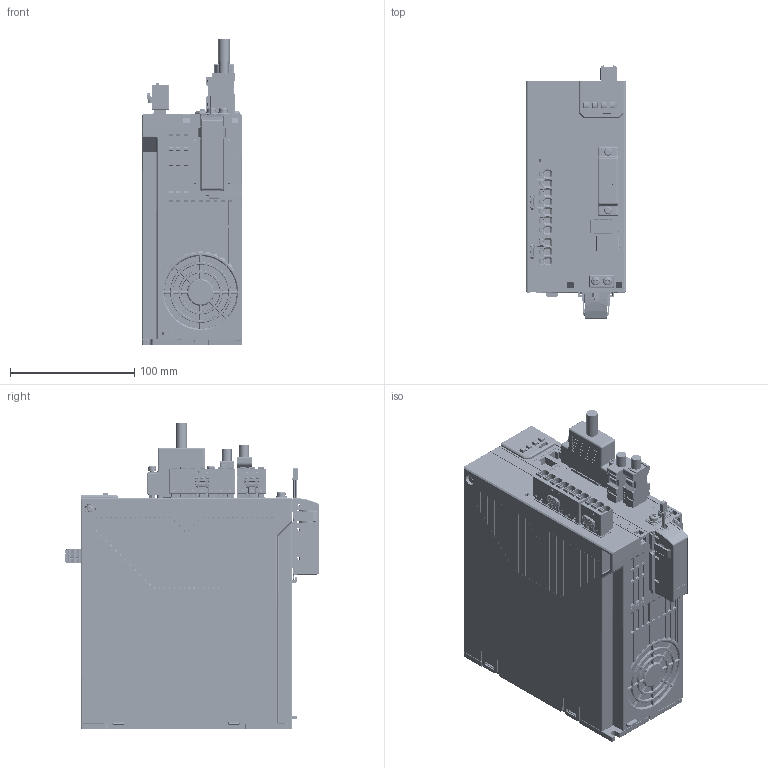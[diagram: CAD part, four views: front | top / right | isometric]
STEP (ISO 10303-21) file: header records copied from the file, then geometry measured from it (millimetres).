
FILE_DESCRIPTION((''),'2;1');
FILE_NAME('SD900-110D-PA_ASM','2025-09-28T',('v5489'),(''),'CREO PARAMETRIC BY PTC INC, 2018360','CREO PARAMETRIC BY PTC INC, 2018360','');
FILE_SCHEMA(('AP203_CONFIGURATION_CONTROLLED_3D_DESIGN_OF_MECHANICAL_PARTS_AND_ASSEMBLIES_MIM_LF { 1 0 10303 403 2 1 2 }'));
Products named in the file (19): 00-SD900-110D-PA_ASM_1_1; 00-SD900-110D-PA_ASM_1_2; 00-SD900-110D-PA_ASM_1_ASM; SD900-DCH-P001_284; SD900-DCH-N001_98; 14505_50_1; 14505_50_2; 14505_50_3; 14505_50_ASM; S6-C4A_31; SD900-DCH-P_ASM_535_ASM; SD900-DCH-P_ASM_ASM; 5006540609; 1394SM_10P_; DB-44-1; F9AP-7_5-03P-A; F9AP-7_5-07P-A; 15EDGKNH-3_5-04P-14-00A_H_; SD900-110D-PA_ASM
Assembly tree (18 placements, depth 5):
  SD900-110D-PA_ASM
    00-SD900-110D-PA_ASM_1_ASM
      00-SD900-110D-PA_ASM_1_1
      00-SD900-110D-PA_ASM_1_2
    SD900-DCH-P_ASM_ASM
      SD900-DCH-P_ASM_535_ASM
        SD900-DCH-P001_284
        SD900-DCH-N001_98
        14505_50_ASM
          14505_50_1
          14505_50_2
          14505_50_3
        S6-C4A_31
    5006540609
    1394SM_10P_
    DB-44-1
    F9AP-7_5-03P-A
    F9AP-7_5-07P-A
    15EDGKNH-3_5-04P-14-00A_H_
Bounding box: 80 x 204.6 x 246.45 mm (x, y, z)
Volume: 2279284.7 mm3; surface area: 446536.9 mm2
Topology: 21 solids, 56 shells, 19041 faces, 50709 edges, 31722 vertices
Faces by surface type: plane 9916, cylinder 5239, bspline 1623, torus 769, cone 656, sphere 457, extrusion 379, revolution 2
Entity records: 770939 total; most frequent: CARTESIAN_POINT 223074, ORIENTED_EDGE 100340, DIRECTION 86433, EDGE_CURVE 50215, VECTOR 32319, LINE 31940, VERTEX_POINT 31721, AXIS2_PLACEMENT_3D 27056
